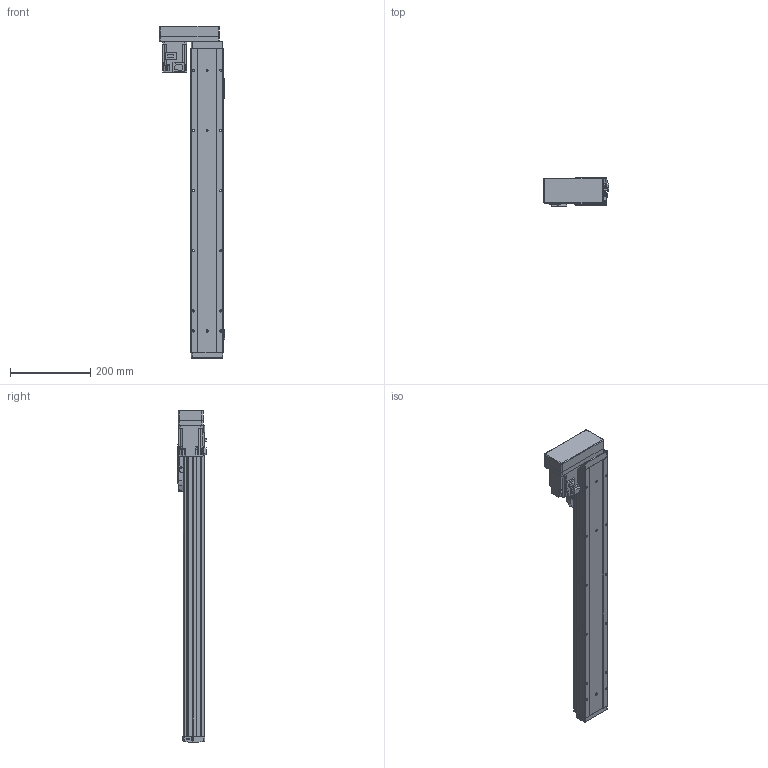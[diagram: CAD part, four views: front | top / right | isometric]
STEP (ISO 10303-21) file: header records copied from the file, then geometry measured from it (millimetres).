
FILE_DESCRIPTION (( 'STEP AP214' ), '1' );
FILE_NAME ('GSH8-600-BR-M20-1.step', '2025-01-07T06:10:42', ( '' ), ( '' ), 'SwSTEP 2.0', 'SolidWorks 2012', '' );
FILE_SCHEMA (( 'AUTOMOTIVE_DESIGN' ));
Length unit declared in the file: millimetre
Products named in the file (5): GSH8-BL-011-600-M20; HG-KR23_200W_Motor; GSH8-GY-004; GSH8-BL-008; GSH8-600-BR-M20-1
Assembly tree (4 placements, depth 2):
  GSH8-600-BR-M20-1
    GSH8-BL-011-600-M20
    GSH8-GY-004
    GSH8-BL-008
    HG-KR23_200W_Motor
Bounding box: 163 x 71.3 x 828.2 mm (x, y, z)
Volume: 2089318.4 mm3; surface area: 514479.7 mm2
Topology: 4 solids, 8 shells, 1127 faces, 2957 edges, 1903 vertices
Faces by surface type: plane 636, cylinder 395, torus 42, cone 26, bspline 24, sphere 4
Entity records: 44717 total; most frequent: CARTESIAN_POINT 10588, DIRECTION 6005, ORIENTED_EDGE 5898, EDGE_CURVE 2949, AXIS2_PLACEMENT_3D 2024, VECTOR 1957, LINE 1957, VERTEX_POINT 1899
